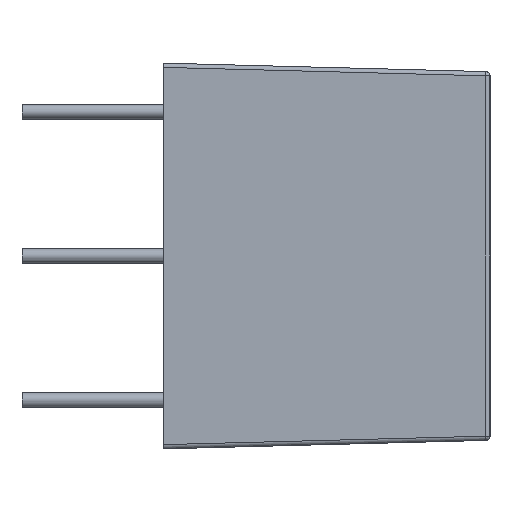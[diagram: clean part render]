
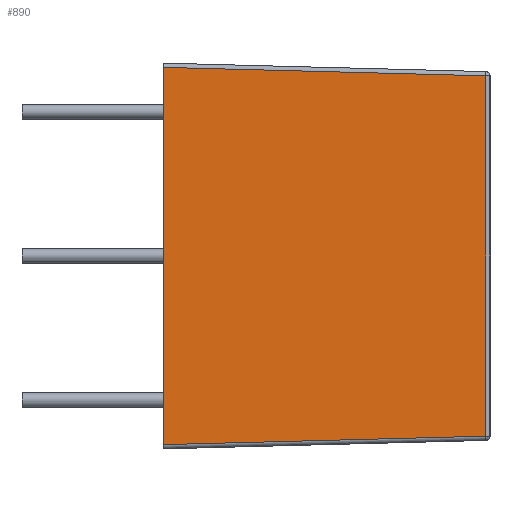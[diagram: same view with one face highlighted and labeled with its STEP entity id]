
A CAD part, left-side view. The second image highlights one B-rep face of the part: STEP entity #890.
In plain terms, the highlighted planar face has unit normal (-1, -0.026, 0).
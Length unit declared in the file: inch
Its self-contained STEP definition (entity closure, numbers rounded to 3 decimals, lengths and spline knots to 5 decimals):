
#113 = CARTESIAN_POINT ( 'NONE',  ( -1.0315, 0., -0.53543 ) ) ;
#400 = EDGE_CURVE ( 'NONE', #1118, #2178, #2582, .T. ) ;
#621 = ORIENTED_EDGE ( 'NONE', *, *, #1164, .F. ) ;
#636 = VERTEX_POINT ( 'NONE', #1988 ) ;
#705 = CARTESIAN_POINT ( 'NONE',  ( -1.0315, 0., -0.52363 ) ) ;
#708 = DIRECTION ( 'NONE',  ( 0., 0., -1. ) ) ;
#801 = VECTOR ( 'NONE', #2017, 39.37008 ) ;
#817 = FACE_OUTER_BOUND ( 'NONE', #2270, .T. ) ;
#890 = ADVANCED_FACE ( 'NONE', ( #817 ), #2567, .T. ) ;
#1039 = ORIENTED_EDGE ( 'NONE', *, *, #400, .T. ) ;
#1107 = DIRECTION ( 'NONE',  ( -1., -0.026, 0. ) ) ;
#1118 = VERTEX_POINT ( 'NONE', #1924 ) ;
#1164 = EDGE_CURVE ( 'NONE', #636, #2178, #1260, .T. ) ;
#1171 = ORIENTED_EDGE ( 'NONE', *, *, #3023, .T. ) ;
#1260 = LINE ( 'NONE', #1741, #1841 ) ;
#1264 = VECTOR ( 'NONE', #708, 39.37008 ) ;
#1429 = DIRECTION ( 'NONE',  ( 0.026, -0.999, 0.026 ) ) ;
#1560 = CARTESIAN_POINT ( 'NONE',  ( -1.0315, 0., 0.52363 ) ) ;
#1641 = EDGE_CURVE ( 'NONE', #2641, #1118, #1920, .T. ) ;
#1680 = LINE ( 'NONE', #2516, #801 ) ;
#1741 = CARTESIAN_POINT ( 'NONE',  ( -1.00809, -0.89401, -0.53543 ) ) ;
#1784 = ORIENTED_EDGE ( 'NONE', *, *, #1641, .T. ) ;
#1841 = VECTOR ( 'NONE', #2230, 39.37008 ) ;
#1852 = VECTOR ( 'NONE', #1429, 39.37008 ) ;
#1920 = LINE ( 'NONE', #2408, #1264 ) ;
#1924 = CARTESIAN_POINT ( 'NONE',  ( -1.0315, 0., -0.52363 ) ) ;
#1988 = CARTESIAN_POINT ( 'NONE',  ( -1.00809, -0.89401, 0.50022 ) ) ;
#2017 = DIRECTION ( 'NONE',  ( -0.026, 0.999, 0.026 ) ) ;
#2178 = VERTEX_POINT ( 'NONE', #3082 ) ;
#2230 = DIRECTION ( 'NONE',  ( 0., 0., -1. ) ) ;
#2270 = EDGE_LOOP ( 'NONE', ( #1784, #1039, #621, #1171 ) ) ;
#2343 = AXIS2_PLACEMENT_3D ( 'NONE', #113, #1107, #2825 ) ;
#2408 = CARTESIAN_POINT ( 'NONE',  ( -1.0315, 0., -0.53543 ) ) ;
#2516 = CARTESIAN_POINT ( 'NONE',  ( -1.00809, -0.89401, 0.50022 ) ) ;
#2567 = PLANE ( 'NONE',  #2343 ) ;
#2582 = LINE ( 'NONE', #705, #1852 ) ;
#2641 = VERTEX_POINT ( 'NONE', #1560 ) ;
#2825 = DIRECTION ( 'NONE',  ( 0.026, -1., 0. ) ) ;
#3023 = EDGE_CURVE ( 'NONE', #636, #2641, #1680, .T. ) ;
#3082 = CARTESIAN_POINT ( 'NONE',  ( -1.00809, -0.89401, -0.50022 ) ) ;
